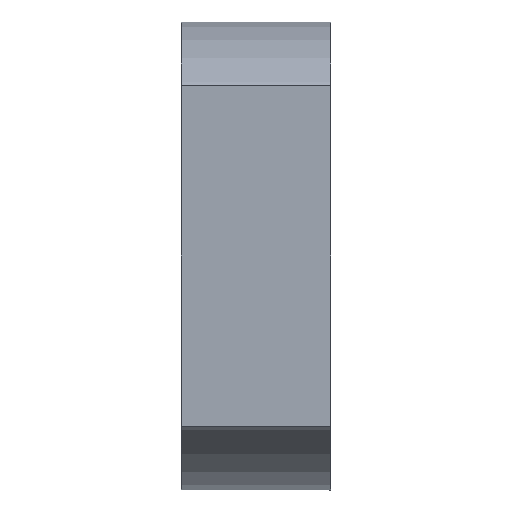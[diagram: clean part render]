
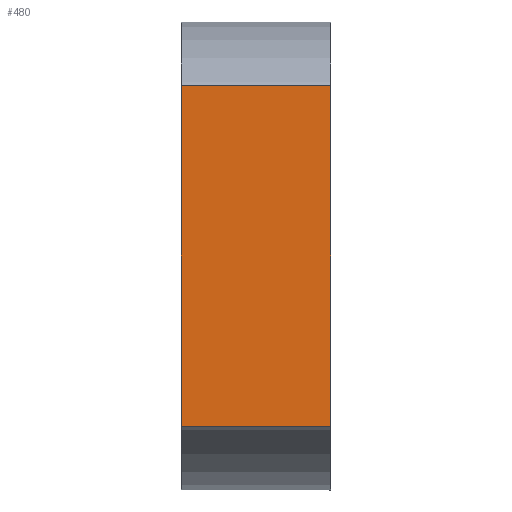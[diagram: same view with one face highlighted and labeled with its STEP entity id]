
A CAD part, left-side view. The second image highlights one B-rep face of the part: STEP entity #480.
In plain terms, the highlighted planar face has unit normal (-1, 0, 0).
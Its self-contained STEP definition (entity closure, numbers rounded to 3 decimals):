
#50 = PLANE('',#51);
#51 = AXIS2_PLACEMENT_3D('',#52,#53,#54);
#52 = CARTESIAN_POINT('',(36.5,6.1,-16.7));
#53 = DIRECTION('',(0.,1.,0.));
#54 = DIRECTION('',(0.,-0.,1.));
#75 = VERTEX_POINT('',#76);
#76 = CARTESIAN_POINT('',(35.8,6.1,-17.6));
#90 = PLANE('',#91);
#91 = AXIS2_PLACEMENT_3D('',#92,#93,#94);
#92 = CARTESIAN_POINT('',(35.8,6.1,-17.6));
#93 = DIRECTION('',(0.,0.,1.));
#94 = DIRECTION('',(1.,0.,-0.));
#102 = EDGE_CURVE('',#75,#103,#105,.T.);
#103 = VERTEX_POINT('',#104);
#104 = CARTESIAN_POINT('',(35.8,6.1,-14.4));
#105 = SURFACE_CURVE('',#106,(#110,#117),.PCURVE_S1.);
#106 = LINE('',#107,#108);
#107 = CARTESIAN_POINT('',(35.8,6.1,-17.6));
#108 = VECTOR('',#109,1.);
#109 = DIRECTION('',(0.,0.,1.));
#110 = PCURVE('',#50,#111);
#111 = DEFINITIONAL_REPRESENTATION('',(#112),#116);
#112 = LINE('',#113,#114);
#113 = CARTESIAN_POINT('',(-0.9,-0.7));
#114 = VECTOR('',#115,1.);
#115 = DIRECTION('',(1.,0.));
#116 = ( GEOMETRIC_REPRESENTATION_CONTEXT(2) 
PARAMETRIC_REPRESENTATION_CONTEXT() REPRESENTATION_CONTEXT('2D SPACE',''
  ) );
#117 = PCURVE('',#118,#123);
#118 = PLANE('',#119);
#119 = AXIS2_PLACEMENT_3D('',#120,#121,#122);
#120 = CARTESIAN_POINT('',(35.8,6.1,-17.6));
#121 = DIRECTION('',(1.,0.,0.));
#122 = DIRECTION('',(0.,0.,1.));
#123 = DEFINITIONAL_REPRESENTATION('',(#124),#128);
#124 = LINE('',#125,#126);
#125 = CARTESIAN_POINT('',(0.,0.));
#126 = VECTOR('',#127,1.);
#127 = DIRECTION('',(1.,0.));
#128 = ( GEOMETRIC_REPRESENTATION_CONTEXT(2) 
PARAMETRIC_REPRESENTATION_CONTEXT() REPRESENTATION_CONTEXT('2D SPACE',''
  ) );
#146 = PLANE('',#147);
#147 = AXIS2_PLACEMENT_3D('',#148,#149,#150);
#148 = CARTESIAN_POINT('',(35.8,6.1,-14.4));
#149 = DIRECTION('',(0.,0.,1.));
#150 = DIRECTION('',(1.,0.,-0.));
#351 = PLANE('',#352);
#352 = AXIS2_PLACEMENT_3D('',#353,#354,#355);
#353 = CARTESIAN_POINT('',(35.8,7.5,-17.6));
#354 = DIRECTION('',(0.,1.,0.));
#355 = DIRECTION('',(0.,-0.,1.));
#387 = EDGE_CURVE('',#75,#388,#390,.T.);
#388 = VERTEX_POINT('',#389);
#389 = CARTESIAN_POINT('',(35.8,7.5,-17.6));
#390 = SURFACE_CURVE('',#391,(#395,#402),.PCURVE_S1.);
#391 = LINE('',#392,#393);
#392 = CARTESIAN_POINT('',(35.8,6.1,-17.6));
#393 = VECTOR('',#394,1.);
#394 = DIRECTION('',(0.,1.,0.));
#395 = PCURVE('',#90,#396);
#396 = DEFINITIONAL_REPRESENTATION('',(#397),#401);
#397 = LINE('',#398,#399);
#398 = CARTESIAN_POINT('',(0.,0.));
#399 = VECTOR('',#400,1.);
#400 = DIRECTION('',(0.,1.));
#401 = ( GEOMETRIC_REPRESENTATION_CONTEXT(2) 
PARAMETRIC_REPRESENTATION_CONTEXT() REPRESENTATION_CONTEXT('2D SPACE',''
  ) );
#402 = PCURVE('',#118,#403);
#403 = DEFINITIONAL_REPRESENTATION('',(#404),#408);
#404 = LINE('',#405,#406);
#405 = CARTESIAN_POINT('',(0.,0.));
#406 = VECTOR('',#407,1.);
#407 = DIRECTION('',(0.,-1.));
#408 = ( GEOMETRIC_REPRESENTATION_CONTEXT(2) 
PARAMETRIC_REPRESENTATION_CONTEXT() REPRESENTATION_CONTEXT('2D SPACE',''
  ) );
#480 = ADVANCED_FACE('',(#481),#118,.F.);
#481 = FACE_BOUND('',#482,.F.);
#482 = EDGE_LOOP('',(#483,#484,#485,#508));
#483 = ORIENTED_EDGE('',*,*,#102,.F.);
#484 = ORIENTED_EDGE('',*,*,#387,.T.);
#485 = ORIENTED_EDGE('',*,*,#486,.T.);
#486 = EDGE_CURVE('',#388,#487,#489,.T.);
#487 = VERTEX_POINT('',#488);
#488 = CARTESIAN_POINT('',(35.8,7.5,-14.4));
#489 = SURFACE_CURVE('',#490,(#494,#501),.PCURVE_S1.);
#490 = LINE('',#491,#492);
#491 = CARTESIAN_POINT('',(35.8,7.5,-17.6));
#492 = VECTOR('',#493,1.);
#493 = DIRECTION('',(0.,0.,1.));
#494 = PCURVE('',#118,#495);
#495 = DEFINITIONAL_REPRESENTATION('',(#496),#500);
#496 = LINE('',#497,#498);
#497 = CARTESIAN_POINT('',(0.,-1.4));
#498 = VECTOR('',#499,1.);
#499 = DIRECTION('',(1.,0.));
#500 = ( GEOMETRIC_REPRESENTATION_CONTEXT(2) 
PARAMETRIC_REPRESENTATION_CONTEXT() REPRESENTATION_CONTEXT('2D SPACE',''
  ) );
#501 = PCURVE('',#351,#502);
#502 = DEFINITIONAL_REPRESENTATION('',(#503),#507);
#503 = LINE('',#504,#505);
#504 = CARTESIAN_POINT('',(0.,0.));
#505 = VECTOR('',#506,1.);
#506 = DIRECTION('',(1.,0.));
#507 = ( GEOMETRIC_REPRESENTATION_CONTEXT(2) 
PARAMETRIC_REPRESENTATION_CONTEXT() REPRESENTATION_CONTEXT('2D SPACE',''
  ) );
#508 = ORIENTED_EDGE('',*,*,#509,.F.);
#509 = EDGE_CURVE('',#103,#487,#510,.T.);
#510 = SURFACE_CURVE('',#511,(#515,#522),.PCURVE_S1.);
#511 = LINE('',#512,#513);
#512 = CARTESIAN_POINT('',(35.8,6.1,-14.4));
#513 = VECTOR('',#514,1.);
#514 = DIRECTION('',(0.,1.,0.));
#515 = PCURVE('',#118,#516);
#516 = DEFINITIONAL_REPRESENTATION('',(#517),#521);
#517 = LINE('',#518,#519);
#518 = CARTESIAN_POINT('',(3.2,0.));
#519 = VECTOR('',#520,1.);
#520 = DIRECTION('',(0.,-1.));
#521 = ( GEOMETRIC_REPRESENTATION_CONTEXT(2) 
PARAMETRIC_REPRESENTATION_CONTEXT() REPRESENTATION_CONTEXT('2D SPACE',''
  ) );
#522 = PCURVE('',#146,#523);
#523 = DEFINITIONAL_REPRESENTATION('',(#524),#528);
#524 = LINE('',#525,#526);
#525 = CARTESIAN_POINT('',(0.,0.));
#526 = VECTOR('',#527,1.);
#527 = DIRECTION('',(0.,1.));
#528 = ( GEOMETRIC_REPRESENTATION_CONTEXT(2) 
PARAMETRIC_REPRESENTATION_CONTEXT() REPRESENTATION_CONTEXT('2D SPACE',''
  ) );
